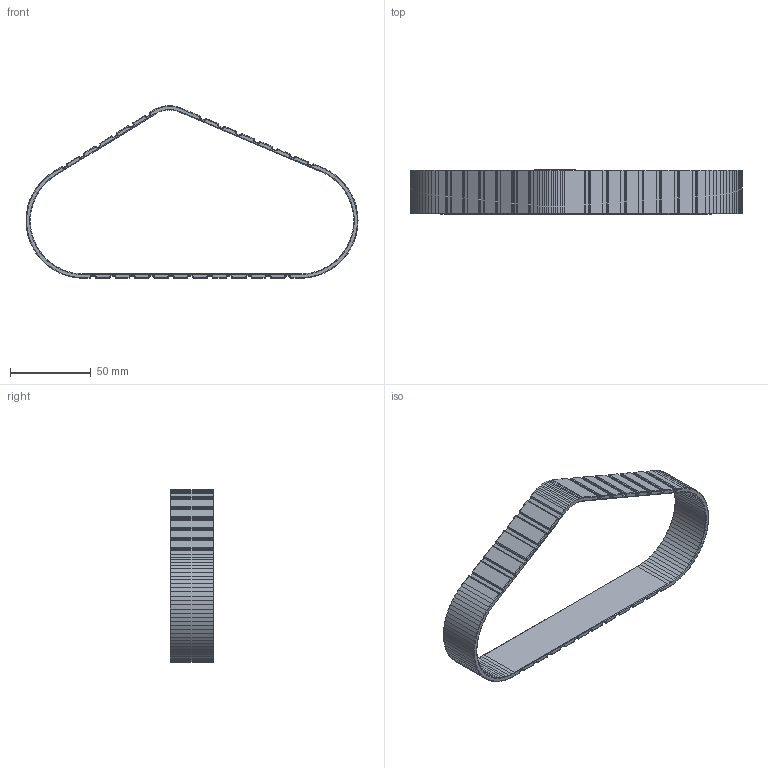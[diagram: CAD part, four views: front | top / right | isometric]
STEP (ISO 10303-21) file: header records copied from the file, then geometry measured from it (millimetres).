
FILE_DESCRIPTION(('Open CASCADE Model'),'2;1');
FILE_NAME('Open CASCADE Shape Model','2026-11-19T06:39:28',('Author'),( 'Open CASCADE'),'Open CASCADE STEP processor 8.0','Open CASCADE 8.0' ,'Unknown');
FILE_SCHEMA(('AUTOMOTIVE_DESIGN { 1 0 10303 214 1 1 1 1 }'));
Products named in the file (1): Open CASCADE STEP translator 8.0 15
Bounding box: 205 x 27 x 106.5 mm (x, y, z)
Volume: 34031.6 mm3; surface area: 30277.4 mm2
Topology: 1 solids, 1 shells, 1100 faces, 2562 edges, 1368 vertices
Faces by surface type: cylinder 636, plane 272, sphere 96, torus 96
Entity records: 60434 total; most frequent: CARTESIAN_POINT 11331, DIRECTION 9156, ORIENTED_EDGE 4932, PCURVE 4932, DEFINITIONAL_REPRESENTATION 4932, LINE 4818, VECTOR 4818, EDGE_CURVE 2466
